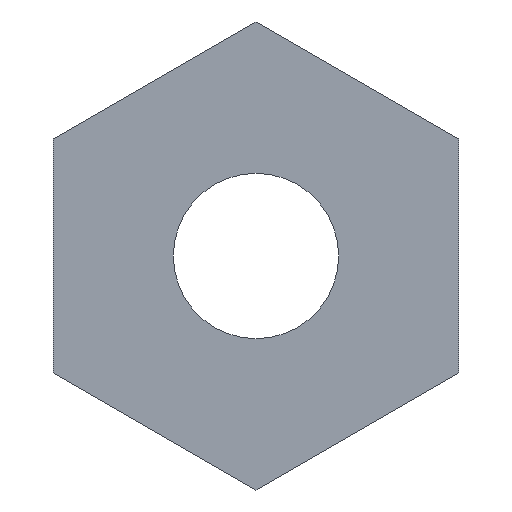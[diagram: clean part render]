
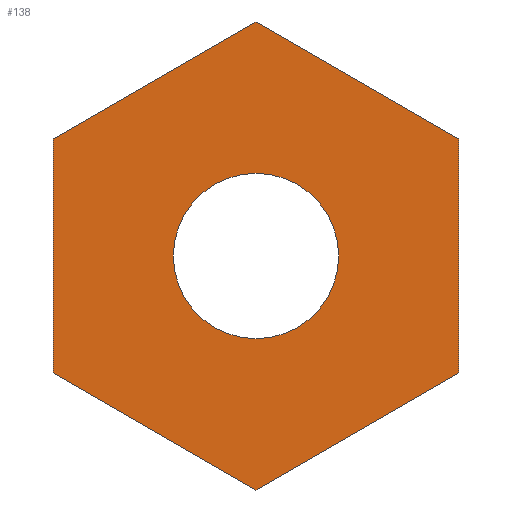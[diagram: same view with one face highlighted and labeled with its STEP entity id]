
A CAD part, front view. The second image highlights one B-rep face of the part: STEP entity #138.
In plain terms, the highlighted planar face has unit normal (0, -1, 0).
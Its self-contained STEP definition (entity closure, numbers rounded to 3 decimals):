
#22 = VERTEX_POINT('',#23);
#23 = CARTESIAN_POINT('',(0.,-2.,1.02));
#32 = CYLINDRICAL_SURFACE('',#33,1.02);
#33 = AXIS2_PLACEMENT_3D('',#34,#35,#36);
#34 = CARTESIAN_POINT('',(0.,-2.1,0.));
#35 = DIRECTION('',(0.,1.,0.));
#36 = DIRECTION('',(0.,-0.,1.));
#44 = CYLINDRICAL_SURFACE('',#45,1.02);
#45 = AXIS2_PLACEMENT_3D('',#46,#47,#48);
#46 = CARTESIAN_POINT('',(0.,-2.1,0.));
#47 = DIRECTION('',(0.,1.,0.));
#48 = DIRECTION('',(0.,-0.,1.));
#86 = VERTEX_POINT('',#87);
#87 = CARTESIAN_POINT('',(0.,-2.,-1.02));
#108 = EDGE_CURVE('',#86,#22,#109,.T.);
#109 = SURFACE_CURVE('',#110,(#115,#122),.PCURVE_S1.);
#110 = CIRCLE('',#111,1.02);
#111 = AXIS2_PLACEMENT_3D('',#112,#113,#114);
#112 = CARTESIAN_POINT('',(0.,-2.,0.));
#113 = DIRECTION('',(0.,1.,0.));
#114 = DIRECTION('',(0.,-0.,1.));
#115 = PCURVE('',#32,#116);
#116 = DEFINITIONAL_REPRESENTATION('',(#117),#121);
#117 = LINE('',#118,#119);
#118 = CARTESIAN_POINT('',(0.,0.1));
#119 = VECTOR('',#120,1.);
#120 = DIRECTION('',(1.,0.));
#121 = ( GEOMETRIC_REPRESENTATION_CONTEXT(2) 
PARAMETRIC_REPRESENTATION_CONTEXT() REPRESENTATION_CONTEXT('2D SPACE',''
  ) );
#122 = PCURVE('',#123,#128);
#123 = PLANE('',#124);
#124 = AXIS2_PLACEMENT_3D('',#125,#126,#127);
#125 = CARTESIAN_POINT('',(0.,-2.,0.)
  );
#126 = DIRECTION('',(0.,-1.,0.));
#127 = DIRECTION('',(0.,-0.,-1.));
#128 = DEFINITIONAL_REPRESENTATION('',(#129),#137);
#129 = ( BOUNDED_CURVE() B_SPLINE_CURVE(2,(#130,#131,#132,#133,#134,#135
,#136),.UNSPECIFIED.,.T.,.F.) B_SPLINE_CURVE_WITH_KNOTS((1,2,2,2,2,1),(
    -2.094,0.,2.094,4.189,6.283,
8.378),.UNSPECIFIED.) CURVE() GEOMETRIC_REPRESENTATION_ITEM() 
RATIONAL_B_SPLINE_CURVE((1.,0.5,1.,0.5,1.,0.5,1.)) REPRESENTATION_ITEM(
  '') );
#130 = CARTESIAN_POINT('',(-1.02,0.));
#131 = CARTESIAN_POINT('',(-1.02,1.767));
#132 = CARTESIAN_POINT('',(0.51,0.883));
#133 = CARTESIAN_POINT('',(2.04,0.));
#134 = CARTESIAN_POINT('',(0.51,-0.883));
#135 = CARTESIAN_POINT('',(-1.02,-1.767));
#136 = CARTESIAN_POINT('',(-1.02,0.));
#137 = ( GEOMETRIC_REPRESENTATION_CONTEXT(2) 
PARAMETRIC_REPRESENTATION_CONTEXT() REPRESENTATION_CONTEXT('2D SPACE',''
  ) );
#138 = ADVANCED_FACE('',(#139,#168),#123,.T.);
#139 = FACE_BOUND('',#140,.T.);
#140 = EDGE_LOOP('',(#141,#167));
#141 = ORIENTED_EDGE('',*,*,#142,.T.);
#142 = EDGE_CURVE('',#22,#86,#143,.T.);
#143 = SURFACE_CURVE('',#144,(#149,#160),.PCURVE_S1.);
#144 = CIRCLE('',#145,1.02);
#145 = AXIS2_PLACEMENT_3D('',#146,#147,#148);
#146 = CARTESIAN_POINT('',(0.,-2.,0.));
#147 = DIRECTION('',(0.,1.,0.));
#148 = DIRECTION('',(0.,-0.,1.));
#149 = PCURVE('',#123,#150);
#150 = DEFINITIONAL_REPRESENTATION('',(#151),#159);
#151 = ( BOUNDED_CURVE() B_SPLINE_CURVE(2,(#152,#153,#154,#155,#156,#157
,#158),.UNSPECIFIED.,.T.,.F.) B_SPLINE_CURVE_WITH_KNOTS((1,2,2,2,2,1),(
    -2.094,0.,2.094,4.189,6.283,
8.378),.UNSPECIFIED.) CURVE() GEOMETRIC_REPRESENTATION_ITEM() 
RATIONAL_B_SPLINE_CURVE((1.,0.5,1.,0.5,1.,0.5,1.)) REPRESENTATION_ITEM(
  '') );
#152 = CARTESIAN_POINT('',(-1.02,0.));
#153 = CARTESIAN_POINT('',(-1.02,1.767));
#154 = CARTESIAN_POINT('',(0.51,0.883));
#155 = CARTESIAN_POINT('',(2.04,0.));
#156 = CARTESIAN_POINT('',(0.51,-0.883));
#157 = CARTESIAN_POINT('',(-1.02,-1.767));
#158 = CARTESIAN_POINT('',(-1.02,0.));
#159 = ( GEOMETRIC_REPRESENTATION_CONTEXT(2) 
PARAMETRIC_REPRESENTATION_CONTEXT() REPRESENTATION_CONTEXT('2D SPACE',''
  ) );
#160 = PCURVE('',#44,#161);
#161 = DEFINITIONAL_REPRESENTATION('',(#162),#166);
#162 = LINE('',#163,#164);
#163 = CARTESIAN_POINT('',(0.,0.1));
#164 = VECTOR('',#165,1.);
#165 = DIRECTION('',(1.,0.));
#166 = ( GEOMETRIC_REPRESENTATION_CONTEXT(2) 
PARAMETRIC_REPRESENTATION_CONTEXT() REPRESENTATION_CONTEXT('2D SPACE',''
  ) );
#167 = ORIENTED_EDGE('',*,*,#108,.T.);
#168 = FACE_BOUND('',#169,.T.);
#169 = EDGE_LOOP('',(#170,#200,#228,#256,#284,#312));
#170 = ORIENTED_EDGE('',*,*,#171,.T.);
#171 = EDGE_CURVE('',#172,#174,#176,.T.);
#172 = VERTEX_POINT('',#173);
#173 = CARTESIAN_POINT('',(0.,-2.,-2.887));
#174 = VERTEX_POINT('',#175);
#175 = CARTESIAN_POINT('',(2.5,-2.,-1.443));
#176 = SURFACE_CURVE('',#177,(#181,#188),.PCURVE_S1.);
#177 = LINE('',#178,#179);
#178 = CARTESIAN_POINT('',(0.,-2.,-2.887));
#179 = VECTOR('',#180,1.);
#180 = DIRECTION('',(0.866,0.,0.5));
#181 = PCURVE('',#123,#182);
#182 = DEFINITIONAL_REPRESENTATION('',(#183),#187);
#183 = LINE('',#184,#185);
#184 = CARTESIAN_POINT('',(2.887,0.));
#185 = VECTOR('',#186,1.);
#186 = DIRECTION('',(-0.5,0.866));
#187 = ( GEOMETRIC_REPRESENTATION_CONTEXT(2) 
PARAMETRIC_REPRESENTATION_CONTEXT() REPRESENTATION_CONTEXT('2D SPACE',''
  ) );
#188 = PCURVE('',#189,#194);
#189 = PLANE('',#190);
#190 = AXIS2_PLACEMENT_3D('',#191,#192,#193);
#191 = CARTESIAN_POINT('',(0.,-2.,-2.887));
#192 = DIRECTION('',(0.5,0.,-0.866));
#193 = DIRECTION('',(-0.866,0.,-0.5));
#194 = DEFINITIONAL_REPRESENTATION('',(#195),#199);
#195 = LINE('',#196,#197);
#196 = CARTESIAN_POINT('',(0.,0.));
#197 = VECTOR('',#198,1.);
#198 = DIRECTION('',(-1.,0.));
#199 = ( GEOMETRIC_REPRESENTATION_CONTEXT(2) 
PARAMETRIC_REPRESENTATION_CONTEXT() REPRESENTATION_CONTEXT('2D SPACE',''
  ) );
#200 = ORIENTED_EDGE('',*,*,#201,.T.);
#201 = EDGE_CURVE('',#174,#202,#204,.T.);
#202 = VERTEX_POINT('',#203);
#203 = CARTESIAN_POINT('',(2.5,-2.,1.443));
#204 = SURFACE_CURVE('',#205,(#209,#216),.PCURVE_S1.);
#205 = LINE('',#206,#207);
#206 = CARTESIAN_POINT('',(2.5,-2.,0.));
#207 = VECTOR('',#208,1.);
#208 = DIRECTION('',(-0.,0.,1.));
#209 = PCURVE('',#123,#210);
#210 = DEFINITIONAL_REPRESENTATION('',(#211),#215);
#211 = LINE('',#212,#213);
#212 = CARTESIAN_POINT('',(0.,2.5));
#213 = VECTOR('',#214,1.);
#214 = DIRECTION('',(-1.,0.));
#215 = ( GEOMETRIC_REPRESENTATION_CONTEXT(2) 
PARAMETRIC_REPRESENTATION_CONTEXT() REPRESENTATION_CONTEXT('2D SPACE',''
  ) );
#216 = PCURVE('',#217,#222);
#217 = PLANE('',#218);
#218 = AXIS2_PLACEMENT_3D('',#219,#220,#221);
#219 = CARTESIAN_POINT('',(2.5,-2.,-1.443));
#220 = DIRECTION('',(1.,0.,0.));
#221 = DIRECTION('',(0.,0.,-1.));
#222 = DEFINITIONAL_REPRESENTATION('',(#223),#227);
#223 = LINE('',#224,#225);
#224 = CARTESIAN_POINT('',(-1.443,0.));
#225 = VECTOR('',#226,1.);
#226 = DIRECTION('',(-1.,0.));
#227 = ( GEOMETRIC_REPRESENTATION_CONTEXT(2) 
PARAMETRIC_REPRESENTATION_CONTEXT() REPRESENTATION_CONTEXT('2D SPACE',''
  ) );
#228 = ORIENTED_EDGE('',*,*,#229,.T.);
#229 = EDGE_CURVE('',#202,#230,#232,.T.);
#230 = VERTEX_POINT('',#231);
#231 = CARTESIAN_POINT('',(0.,-2.,2.887));
#232 = SURFACE_CURVE('',#233,(#237,#244),.PCURVE_S1.);
#233 = LINE('',#234,#235);
#234 = CARTESIAN_POINT('',(2.5,-2.,1.443));
#235 = VECTOR('',#236,1.);
#236 = DIRECTION('',(-0.866,0.,0.5));
#237 = PCURVE('',#123,#238);
#238 = DEFINITIONAL_REPRESENTATION('',(#239),#243);
#239 = LINE('',#240,#241);
#240 = CARTESIAN_POINT('',(-1.443,2.5));
#241 = VECTOR('',#242,1.);
#242 = DIRECTION('',(-0.5,-0.866));
#243 = ( GEOMETRIC_REPRESENTATION_CONTEXT(2) 
PARAMETRIC_REPRESENTATION_CONTEXT() REPRESENTATION_CONTEXT('2D SPACE',''
  ) );
#244 = PCURVE('',#245,#250);
#245 = PLANE('',#246);
#246 = AXIS2_PLACEMENT_3D('',#247,#248,#249);
#247 = CARTESIAN_POINT('',(2.5,-2.,1.443));
#248 = DIRECTION('',(0.5,0.,0.866));
#249 = DIRECTION('',(0.866,0.,-0.5));
#250 = DEFINITIONAL_REPRESENTATION('',(#251),#255);
#251 = LINE('',#252,#253);
#252 = CARTESIAN_POINT('',(0.,0.));
#253 = VECTOR('',#254,1.);
#254 = DIRECTION('',(-1.,0.));
#255 = ( GEOMETRIC_REPRESENTATION_CONTEXT(2) 
PARAMETRIC_REPRESENTATION_CONTEXT() REPRESENTATION_CONTEXT('2D SPACE',''
  ) );
#256 = ORIENTED_EDGE('',*,*,#257,.T.);
#257 = EDGE_CURVE('',#230,#258,#260,.T.);
#258 = VERTEX_POINT('',#259);
#259 = CARTESIAN_POINT('',(-2.5,-2.,1.443));
#260 = SURFACE_CURVE('',#261,(#265,#272),.PCURVE_S1.);
#261 = LINE('',#262,#263);
#262 = CARTESIAN_POINT('',(0.,-2.,2.887));
#263 = VECTOR('',#264,1.);
#264 = DIRECTION('',(-0.866,0.,-0.5));
#265 = PCURVE('',#123,#266);
#266 = DEFINITIONAL_REPRESENTATION('',(#267),#271);
#267 = LINE('',#268,#269);
#268 = CARTESIAN_POINT('',(-2.887,0.));
#269 = VECTOR('',#270,1.);
#270 = DIRECTION('',(0.5,-0.866));
#271 = ( GEOMETRIC_REPRESENTATION_CONTEXT(2) 
PARAMETRIC_REPRESENTATION_CONTEXT() REPRESENTATION_CONTEXT('2D SPACE',''
  ) );
#272 = PCURVE('',#273,#278);
#273 = PLANE('',#274);
#274 = AXIS2_PLACEMENT_3D('',#275,#276,#277);
#275 = CARTESIAN_POINT('',(0.,-2.,2.887));
#276 = DIRECTION('',(-0.5,0.,0.866));
#277 = DIRECTION('',(0.866,0.,0.5));
#278 = DEFINITIONAL_REPRESENTATION('',(#279),#283);
#279 = LINE('',#280,#281);
#280 = CARTESIAN_POINT('',(0.,0.));
#281 = VECTOR('',#282,1.);
#282 = DIRECTION('',(-1.,0.));
#283 = ( GEOMETRIC_REPRESENTATION_CONTEXT(2) 
PARAMETRIC_REPRESENTATION_CONTEXT() REPRESENTATION_CONTEXT('2D SPACE',''
  ) );
#284 = ORIENTED_EDGE('',*,*,#285,.T.);
#285 = EDGE_CURVE('',#258,#286,#288,.T.);
#286 = VERTEX_POINT('',#287);
#287 = CARTESIAN_POINT('',(-2.5,-2.,-1.443));
#288 = SURFACE_CURVE('',#289,(#293,#300),.PCURVE_S1.);
#289 = LINE('',#290,#291);
#290 = CARTESIAN_POINT('',(-2.5,-2.,0.));
#291 = VECTOR('',#292,1.);
#292 = DIRECTION('',(0.,-0.,-1.));
#293 = PCURVE('',#123,#294);
#294 = DEFINITIONAL_REPRESENTATION('',(#295),#299);
#295 = LINE('',#296,#297);
#296 = CARTESIAN_POINT('',(-0.,-2.5));
#297 = VECTOR('',#298,1.);
#298 = DIRECTION('',(1.,0.));
#299 = ( GEOMETRIC_REPRESENTATION_CONTEXT(2) 
PARAMETRIC_REPRESENTATION_CONTEXT() REPRESENTATION_CONTEXT('2D SPACE',''
  ) );
#300 = PCURVE('',#301,#306);
#301 = PLANE('',#302);
#302 = AXIS2_PLACEMENT_3D('',#303,#304,#305);
#303 = CARTESIAN_POINT('',(-2.5,-2.,1.443));
#304 = DIRECTION('',(-1.,0.,0.));
#305 = DIRECTION('',(0.,0.,1.));
#306 = DEFINITIONAL_REPRESENTATION('',(#307),#311);
#307 = LINE('',#308,#309);
#308 = CARTESIAN_POINT('',(-1.443,0.));
#309 = VECTOR('',#310,1.);
#310 = DIRECTION('',(-1.,0.));
#311 = ( GEOMETRIC_REPRESENTATION_CONTEXT(2) 
PARAMETRIC_REPRESENTATION_CONTEXT() REPRESENTATION_CONTEXT('2D SPACE',''
  ) );
#312 = ORIENTED_EDGE('',*,*,#313,.T.);
#313 = EDGE_CURVE('',#286,#172,#314,.T.);
#314 = SURFACE_CURVE('',#315,(#319,#326),.PCURVE_S1.);
#315 = LINE('',#316,#317);
#316 = CARTESIAN_POINT('',(-2.5,-2.,-1.443));
#317 = VECTOR('',#318,1.);
#318 = DIRECTION('',(0.866,0.,-0.5));
#319 = PCURVE('',#123,#320);
#320 = DEFINITIONAL_REPRESENTATION('',(#321),#325);
#321 = LINE('',#322,#323);
#322 = CARTESIAN_POINT('',(1.443,-2.5));
#323 = VECTOR('',#324,1.);
#324 = DIRECTION('',(0.5,0.866));
#325 = ( GEOMETRIC_REPRESENTATION_CONTEXT(2) 
PARAMETRIC_REPRESENTATION_CONTEXT() REPRESENTATION_CONTEXT('2D SPACE',''
  ) );
#326 = PCURVE('',#327,#332);
#327 = PLANE('',#328);
#328 = AXIS2_PLACEMENT_3D('',#329,#330,#331);
#329 = CARTESIAN_POINT('',(-2.5,-2.,-1.443));
#330 = DIRECTION('',(-0.5,0.,-0.866));
#331 = DIRECTION('',(-0.866,0.,0.5));
#332 = DEFINITIONAL_REPRESENTATION('',(#333),#337);
#333 = LINE('',#334,#335);
#334 = CARTESIAN_POINT('',(0.,0.));
#335 = VECTOR('',#336,1.);
#336 = DIRECTION('',(-1.,0.));
#337 = ( GEOMETRIC_REPRESENTATION_CONTEXT(2) 
PARAMETRIC_REPRESENTATION_CONTEXT() REPRESENTATION_CONTEXT('2D SPACE',''
  ) );
